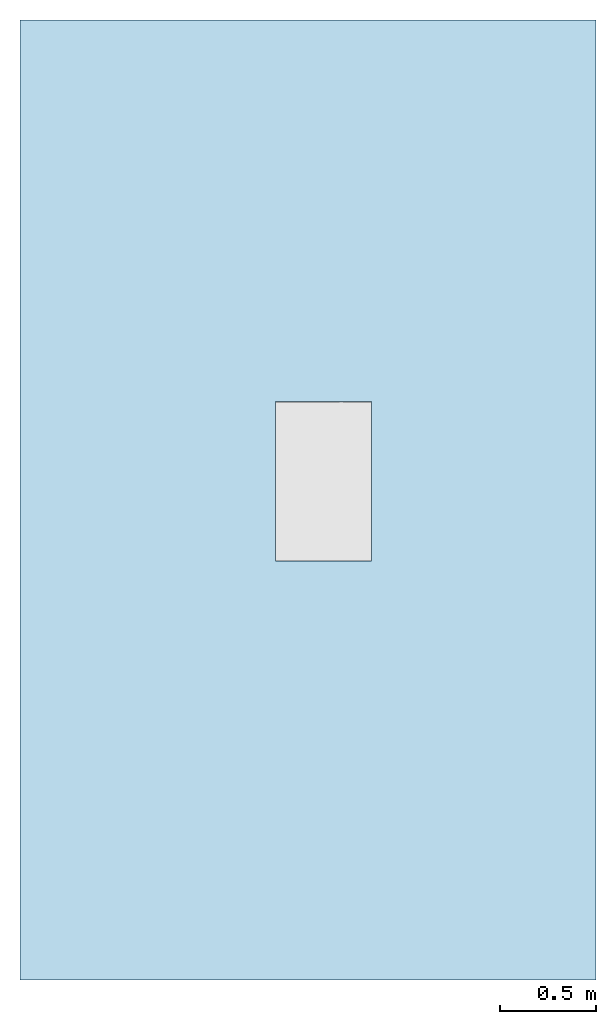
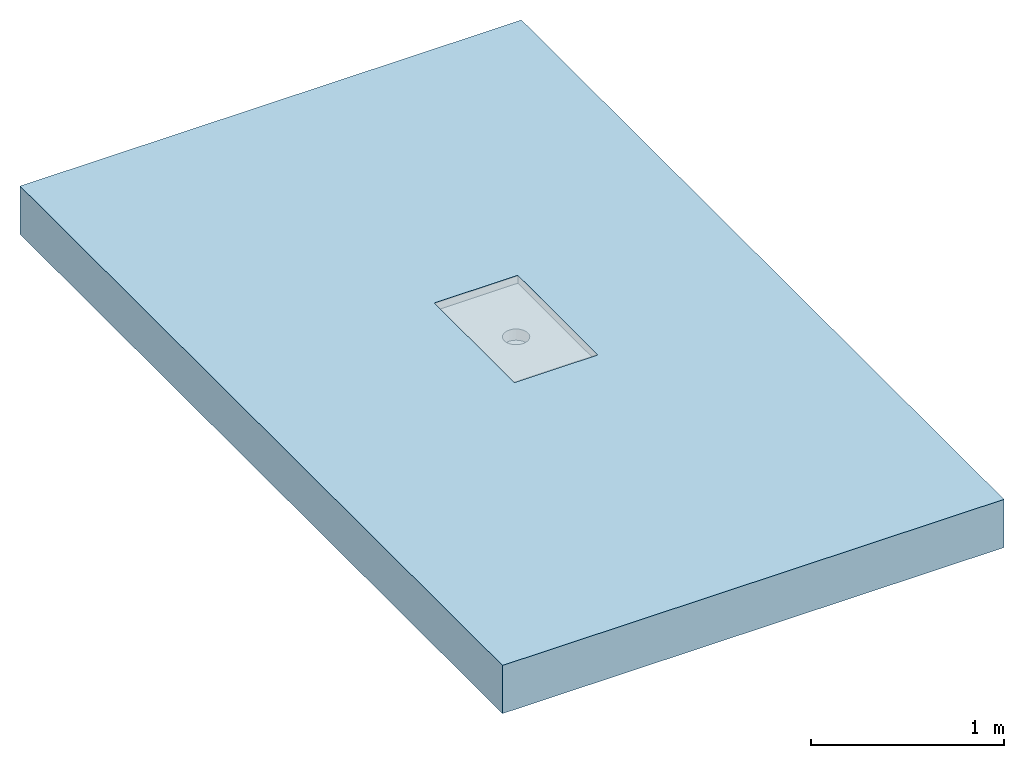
# One storey, incomplete: 1 slab, 1 opening.
"""IFC2X3 building model written with IfcOpenShell, lengths in millimetres."""

import ifcopenshell
import ifcopenshell.guid

model = None  # the IFC model being written
_history = None  # IfcOwnerHistory: only IFC2X3 demands one
_inside = {}  # id of a spatial element -> (the spatial element, [elements in it])
_under = {}  # id of a project, library or spatial element -> (it, [spatial elements below it])
_declared = {}  # id of a project -> (the project, [libraries it declares])
_typed = {}  # id of a type object -> (the type object, [elements of that type])
_made_of = {}  # id of a material, layer set ... -> (it, [elements and type objects made of it])


def new_model(schema):
    """Start an empty IFC model of exactly this schema.

    Asked for "IFC4X3", IfcOpenShell would pick the latest addendum, in which some entities
    have other attributes; the version numbers below select the first issue.
    IFC2X3 requires an IfcOwnerHistory on every rooted entity: one is made here for all.
    """
    global model, _history
    if schema == "IFC4X3":
        model = ifcopenshell.file(schema_version=(4, 3, 0, 0))
    else:
        model = ifcopenshell.file(schema=schema)
    _inside.clear()
    _under.clear()
    _declared.clear()
    _typed.clear()
    _made_of.clear()
    _history = None
    if model.schema == "IFC2X3":
        org = make("IfcOrganization", Name="unknown")
        user = make(
            "IfcPersonAndOrganization",
            ThePerson=make("IfcPerson", FamilyName="unknown"),
            TheOrganization=org,
        )
        app = make(
            "IfcApplication",
            ApplicationDeveloper=org,
            Version="unknown",
            ApplicationFullName="unknown",
            ApplicationIdentifier="unknown",
        )
        _history = make(
            "IfcOwnerHistory",
            OwningUser=user,
            OwningApplication=app,
            ChangeAction="ADDED",
            CreationDate=0,
        )
    return model


def make(cls, **values):
    """One entity of the class cls with the attributes given. An attribute that is None is left unset."""
    return model.create_entity(
        cls, **{name: value for name, value in values.items() if value is not None}
    )


def entity(cls, *values):
    """Any entity or typed value of the class cls, its attributes in the order of the schema. None: left unset."""
    e = model.create_entity(cls)
    for i, value in enumerate(values):
        if value is not None:
            e[i] = value
    return e


def rooted(cls, **values):
    """An entity with a GlobalId (a new one), such as an element, a storey or a relation."""
    return make(cls, GlobalId=ifcopenshell.guid.new(), OwnerHistory=_history, **values)


def si_unit(unit_type, name, prefix=None):
    """IfcSIUnit, for example si_unit("LENGTHUNIT", "METRE", prefix="MILLI")."""
    return make("IfcSIUnit", UnitType=unit_type, Prefix=prefix, Name=name)


def converted_unit(unit_type, name, factor, base, dimensions=None, offset=None):
    """IfcConversionBasedUnit, such as the inch: factor (a typed value) times the base unit."""
    return make(
        "IfcConversionBasedUnit"
        if offset is None
        else "IfcConversionBasedUnitWithOffset",
        ConversionOffset=offset,
        Dimensions=None
        if dimensions is None
        else entity("IfcDimensionalExponents", *dimensions),
        UnitType=unit_type,
        Name=name,
        ConversionFactor=make(
            "IfcMeasureWithUnit", ValueComponent=factor, UnitComponent=base
        ),
    )


def derived_unit(unit_type, elements):
    """IfcDerivedUnit: a product of units, each with its exponent."""
    return make(
        "IfcDerivedUnit",
        Elements=[
            make("IfcDerivedUnitElement", Unit=unit, Exponent=power)
            for unit, power in elements
        ],
        UnitType=unit_type,
    )


def assignment(units):
    """IfcUnitAssignment: the units of a project."""
    return None if units is None else make("IfcUnitAssignment", Units=units)


def point(xyz):
    """IfcCartesianPoint."""
    return None if xyz is None else make("IfcCartesianPoint", Coordinates=xyz)


def direction(xyz):
    """IfcDirection."""
    return None if xyz is None else make("IfcDirection", DirectionRatios=xyz)


def frame(location, z_axis=None, x_axis=None):
    """IfcAxis2Placement3D, a coordinate frame: its origin and axes. An axis left out is left unset."""
    return make(
        "IfcAxis2Placement3D",
        Location=point(location),
        Axis=direction(z_axis),
        RefDirection=direction(x_axis),
    )


def frame_2d(location, x_axis=None):
    """IfcAxis2Placement2D, a coordinate frame in the plane: its origin and x axis."""
    return make(
        "IfcAxis2Placement2D", Location=point(location), RefDirection=direction(x_axis)
    )


def origin():
    """The frame at (0, 0, 0) with its axes left unset."""
    return frame((0.0, 0.0, 0.0))


def place(relative_to, where):
    """IfcLocalPlacement: puts the frame where relative to a parent placement (None: the world)."""
    return make(
        "IfcLocalPlacement", PlacementRelTo=relative_to, RelativePlacement=where
    )


def context(
    kind, dimensions, precision=None, world=None, true_north=None, identifier=None
):
    """IfcGeometricRepresentationContext, for example the 3D "Model" context."""
    return make(
        "IfcGeometricRepresentationContext",
        ContextIdentifier=identifier,
        ContextType=kind,
        CoordinateSpaceDimension=dimensions,
        Precision=precision,
        WorldCoordinateSystem=world,
        TrueNorth=true_north,
    )


def subcontext(parent, identifier, kind, view, scale=None):
    """IfcGeometricRepresentationSubContext, for example "Body" below "Model"."""
    return make(
        "IfcGeometricRepresentationSubContext",
        ContextIdentifier=identifier,
        ContextType=kind,
        ParentContext=parent,
        TargetScale=scale,
        TargetView=view,
    )


def project(units=None, contexts=None):
    """IfcProject with its units and contexts."""
    return rooted(
        "IfcProject",
        Name="project",
        RepresentationContexts=contexts,
        UnitsInContext=assignment(units),
    )


def spatial(cls, under=None, at=None, **own):
    """A site, building, storey or space (cls), placed at a placement, below another one or the project."""
    s = rooted(cls, ObjectPlacement=at, **own)
    if under is not None:
        _under.setdefault(under.id(), (under, []))[1].append(s)
    return s


def profile(cls, at=None, kind="AREA", **sizes):
    """A parametric profile (cls). Its sizes go by their IFC names, for example OverallWidth=200.0."""
    return make(cls, ProfileType=kind, Position=at, **sizes)


def rectangle(**sizes):
    """IfcRectangleProfileDef."""
    return profile("IfcRectangleProfileDef", **sizes)


def extrude(swept, where, along, depth):
    """IfcExtrudedAreaSolid: the profile swept, set in the frame where, extruded along a direction by depth."""
    return make(
        "IfcExtrudedAreaSolid",
        SweptArea=swept,
        Position=where,
        ExtrudedDirection=direction(along),
        Depth=depth,
    )


def faces_of(points, faces, orient=None, outer=None):
    """IfcFace entities. A face is a list of loops; a loop is a list of indices into points, from 0.

    orient and outer hold one flag for each loop. By default every Orientation is true, the
    first loop of a face is its IfcFaceOuterBound and the others are IfcFaceBound.
    """
    made = []
    for i, loops in enumerate(faces):
        bounds = []
        for j, loop in enumerate(loops):
            is_outer = j == 0 if outer is None else outer[i][j]
            bounds.append(
                make(
                    "IfcFaceOuterBound" if is_outer else "IfcFaceBound",
                    Bound=make("IfcPolyLoop", Polygon=[points[k] for k in loop]),
                    Orientation=True if orient is None else orient[i][j],
                )
            )
        made.append(make("IfcFace", Bounds=bounds))
    return made


def faceted_brep(points, faces, orient=None, outer=None, voids=None):
    """IfcFacetedBrep: a solid bounded by flat faces; with voids (closed shells), ...WithVoids."""
    shared = [point(p) for p in points]
    hull = make("IfcClosedShell", CfsFaces=faces_of(shared, faces, orient, outer))
    if voids is None:
        return make("IfcFacetedBrep", Outer=hull)
    return make(
        "IfcFacetedBrepWithVoids",
        Outer=hull,
        Voids=[
            make(cls, CfsFaces=faces_of(shared, fs, o, b)) for cls, fs, o, b in voids
        ],
    )


def shape(context_of_items, identifier, shape_type, items):
    """IfcShapeRepresentation: the items that make up one representation, for example the "Body"."""
    return make(
        "IfcShapeRepresentation",
        ContextOfItems=context_of_items,
        RepresentationIdentifier=identifier,
        RepresentationType=shape_type,
        Items=items,
    )


def material(Name=None, Category=None):
    """IfcMaterial."""
    return make("IfcMaterial", Name=Name, Category=Category)


def layer(
    of_material, thickness, ventilated=None, Name=None, Category=None, Priority=None
):
    """IfcMaterialLayer: one layer of a wall or slab, of a material (None: an air gap)."""
    return make(
        "IfcMaterialLayer",
        Material=of_material,
        LayerThickness=thickness,
        IsVentilated=ventilated,
        Name=Name,
        Category=Category,
        Priority=Priority,
    )


def layer_set(layers, Name=None):
    """IfcMaterialLayerSet."""
    return make("IfcMaterialLayerSet", MaterialLayers=layers, LayerSetName=Name)


def layer_usage(for_layer_set, set_direction, sense, offset, extent=None):
    """IfcMaterialLayerSetUsage: how a layer set lies in its element."""
    return make(
        "IfcMaterialLayerSetUsage",
        ForLayerSet=for_layer_set,
        LayerSetDirection=set_direction,
        DirectionSense=sense,
        OffsetFromReferenceLine=offset,
        ReferenceExtent=extent,
    )


def made_of(thing, what):
    """Note that an element or type object is made of a material, layer set ...; save() writes the relation."""
    if what is not None:
        _made_of.setdefault(what.id(), (what, []))[1].append(thing)
    return thing


def element(
    cls,
    number,
    at=None,
    inside=None,
    cuts=None,
    type_object=None,
    material=None,
    context=None,
    identifier="Body",
    shape_type=None,
    held_by="IfcProductDefinitionShape",
    body=None,
    shapes=None,
    **own,
):
    """One element of the class cls, such as IfcWall. Its Tag is "e" and its number.

    at: its placement. inside: the storey or other place that contains it. cuts: it is an
    opening in that element (IfcRelVoidsElement). A single representation is given by context,
    identifier, shape_type and body (its items); several are given by shapes. held_by: the class
    of the entity that holds the representations. save() writes the other relations.
    """
    e = rooted(cls, Tag="e%d" % number, ObjectPlacement=at, **own)
    if body is not None:
        shapes = [shape(context, identifier, shape_type, body)]
    if shapes is not None:
        e.Representation = make(held_by, Representations=shapes)
    if inside is not None:
        _inside.setdefault(inside.id(), (inside, []))[1].append(e)
    if cuts is not None:
        rooted(
            "IfcRelVoidsElement", RelatingBuildingElement=cuts, RelatedOpeningElement=e
        )
    if type_object is not None:
        _typed.setdefault(type_object.id(), (type_object, []))[1].append(e)
    return made_of(e, material)


def aggregate(whole, parts):
    """IfcRelAggregates: a whole, such as a stair, and the parts it consists of."""
    return rooted("IfcRelAggregates", RelatingObject=whole, RelatedObjects=parts)


def save(model, path):
    """Write the relations noted so far, then the file.

    IfcRelAggregates (storeys below a building ...), IfcRelContainedInSpatialStructure (elements
    in a storey), IfcRelDefinesByType, IfcRelAssociatesMaterial and IfcRelDeclares: one each for
    every whole, place, type object, material and project.
    """
    for whole, parts in _under.values():
        aggregate(whole, parts)
    for where, things in _inside.values():
        rooted(
            "IfcRelContainedInSpatialStructure",
            RelatedElements=things,
            RelatingStructure=where,
        )
    for kind, things in _typed.values():
        rooted("IfcRelDefinesByType", RelatedObjects=things, RelatingType=kind)
    for what, things in _made_of.values():
        rooted("IfcRelAssociatesMaterial", RelatedObjects=things, RelatingMaterial=what)
    for by, libraries in _declared.values():
        rooted("IfcRelDeclares", RelatingContext=by, RelatedDefinitions=libraries)
    model.write(path)


model = new_model("IFC2X3")

# Units and contexts
model_context = context("Model", 3, precision=1e-05, world=origin(), true_north=direction((2.0, 6.12303176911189e-17, 1.0)))
context_of_model = context(None, 3, precision=1e-05, world=origin(), true_north=direction((2.0, 6.12303176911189e-17, 1.0)))
body_context = subcontext(model_context, "Body", "Model", "MODEL_VIEW")
ifc_project = project(units=[si_unit("LENGTHUNIT", "METRE", prefix="MILLI"), converted_unit("AREAUNIT", "SQUARE FOOT", entity("IfcRatioMeasure", 0.09290304), si_unit("AREAUNIT", "SQUARE_METRE"), dimensions=[2, 0, 0, 0, 0, 0, 0]), converted_unit("VOLUMEUNIT", "CUBIC FOOT", entity("IfcRatioMeasure", 0.028316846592), si_unit("VOLUMEUNIT", "CUBIC_METRE"), dimensions=[3, 0, 0, 0, 0, 0, 0]), converted_unit("PLANEANGLEUNIT", "DEGREE", entity("IfcRatioMeasure", 0.0174532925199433), si_unit("PLANEANGLEUNIT", "RADIAN"), dimensions=[0, 0, 0, 0, 0, 0, 0]), si_unit("MASSUNIT", "GRAM", prefix="KILO"), si_unit("TIMEUNIT", "SECOND"), si_unit("THERMODYNAMICTEMPERATUREUNIT", "KELVIN"), derived_unit("THERMALTRANSMITTANCEUNIT", [(si_unit("MASSUNIT", "GRAM", prefix="KILO"), 1), (si_unit("THERMODYNAMICTEMPERATUREUNIT", "KELVIN"), -1), (si_unit("TIMEUNIT", "SECOND"), -3)]), derived_unit("VOLUMETRICFLOWRATEUNIT", [(si_unit("LENGTHUNIT", "METRE"), 3), (si_unit("TIMEUNIT", "SECOND"), -1)]), si_unit("POWERUNIT", "WATT")], contexts=[model_context, context_of_model])

# Site, building, storey
site_placement = place(None, origin())
site = spatial("IfcSite", under=ifc_project, at=site_placement, Name="Default", CompositionType="ELEMENT")
building_placement = place(site_placement, origin())
building = spatial("IfcBuilding", under=site, at=building_placement, CompositionType="ELEMENT")
storey_placement = place(building_placement, origin())
storey = spatial("IfcBuildingStorey", under=building, at=storey_placement, Name="Level 1", CompositionType="ELEMENT", Elevation=0.0)

# Slab, opening
ifc_material = material(Name="Default Floor")
ifc_layer = layer(ifc_material, 304.8)
ifc_layer_set = layer_set([ifc_layer], Name="Floor:Generic - 12\"")
ifc_layer_usage = layer_usage(ifc_layer_set, "AXIS3", "POSITIVE", 0.0)
slab_placement = place(storey_placement, frame((-2592.42688678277, 381.838531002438, -304.8)))
slab = element("IfcSlab", 1, at=slab_placement, inside=storey, material=ifc_layer_usage, Name="Floor:Generic - 12\"", ObjectType="Floor:Generic - 12\"", PredefinedType="FLOOR", context=body_context, shape_type="SweptSolid", body=[
    extrude(rectangle(XDim=5000.0, YDim=3000.0, at=frame_2d((0.0, 0.0), x_axis=(0.0, -1.0))), frame((1500.0, 2500.0, 304.8), z_axis=(0.0, 0.0, -1.0), x_axis=(-1.0, 0.0, 0.0)), (0.0, 0.0, 1.0), 304.8),
])
opening_placement = place(slab_placement, frame((1330.67132830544, 2182.13046536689, 184.151793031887)))
element("IfcOpeningElement", 2, at=opening_placement, cuts=slab, ObjectType="Recess", context=body_context, shape_type="Brep", body=[
    faceted_brep([(499.667309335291, 0.0, 70.6482069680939), (499.667309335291, 0.0, 120.648206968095), (0.0, 0.0, 70.6482069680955), (0.0, 0.0, 120.648206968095), (0.0, 830.0, 70.6482069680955), (0.0, 830.0, 120.648206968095), (499.667309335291, 830.0, 120.648206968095), (499.667309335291, 830.0, 70.6482069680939), (214.333654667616, 353.512196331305, 70.6482069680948), (231.457502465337, 346.419266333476, 70.6482069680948), (199.629073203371, 364.795418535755, 70.6482069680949), (249.833654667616, 344.0, 70.6482069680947), (178.833654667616, 415.0, 70.6482069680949), (181.252921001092, 396.623847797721, 70.6482069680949), (188.345850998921, 379.5, 70.6482069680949), (268.209806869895, 346.419266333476, 70.6482069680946), (285.333654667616, 353.512196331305, 70.6482069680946), (300.038236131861, 364.795418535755, 70.6482069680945), (311.321458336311, 379.5, 70.6482069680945), (318.41438833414, 396.623847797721, 70.6482069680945), (320.833654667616, 415.0, 70.6482069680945), (188.345850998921, 450.500000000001, 70.6482069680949), (181.252921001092, 433.37615220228, 70.6482069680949), (199.629073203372, 465.204581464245, 70.6482069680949), (214.333654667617, 476.487803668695, 70.6482069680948), (231.457502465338, 483.580733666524, 70.6482069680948), (249.833654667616, 486.0, 70.6482069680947), (318.41438833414, 433.376152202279, 70.6482069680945), (311.321458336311, 450.5, 70.6482069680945), (285.333654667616, 476.487803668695, 70.6482069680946), (268.209806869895, 483.580733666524, 70.6482069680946), (300.038236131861, 465.204581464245, 70.6482069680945), (199.629073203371, 364.795418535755, 0.0), (249.833654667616, 344.0, 0.0), (231.457502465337, 346.419266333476, 0.0), (214.333654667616, 353.512196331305, 0.0), (188.345850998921, 379.5, 0.0), (181.252921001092, 396.623847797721, 0.0), (231.457502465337, 483.580733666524, 0.0), (300.038236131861, 364.795418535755, 0.0), (285.333654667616, 476.487803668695, 0.0), (285.333654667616, 353.512196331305, 0.0), (268.209806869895, 346.419266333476, 0.0), (311.321458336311, 379.5, 0.0), (311.321458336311, 450.5, 0.0), (318.41438833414, 396.623847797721, 0.0), (320.833654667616, 415.0, 0.0), (318.41438833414, 433.376152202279, 0.0), (181.252921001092, 433.376152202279, 0.0), (188.345850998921, 450.5, 0.0), (199.629073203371, 465.204581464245, 0.0), (214.333654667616, 476.487803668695, 0.0), (268.209806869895, 483.580733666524, 0.0), (300.038236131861, 465.204581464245, 0.0), (249.833654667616, 486.0, 0.0), (178.833654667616, 415.0, 0.0)], [[[0, 1, 2]], [[3, 2, 1]], [[4, 5, 6]], [[6, 7, 4]], [[3, 1, 6]], [[6, 5, 3]], [[2, 3, 5]], [[5, 4, 2]], [[1, 0, 6]], [[7, 6, 0]], [[2, 8, 9]], [[8, 2, 10]], [[2, 9, 11]], [[12, 13, 2]], [[14, 10, 2]], [[13, 14, 2]], [[2, 4, 12]], [[0, 11, 15]], [[11, 0, 2]], [[0, 15, 16]], [[16, 17, 0]], [[18, 19, 0]], [[17, 18, 0]], [[0, 19, 20]], [[21, 22, 4]], [[23, 21, 4]], [[24, 4, 25]], [[4, 24, 23]], [[26, 25, 4]], [[4, 7, 26]], [[22, 12, 4]], [[27, 28, 7]], [[20, 27, 7]], [[29, 30, 7]], [[31, 7, 28]], [[7, 31, 29]], [[30, 26, 7]], [[20, 7, 0]], [[32, 33, 34]], [[32, 34, 35]], [[32, 36, 37]], [[33, 32, 38]], [[39, 33, 40]], [[33, 41, 42]], [[33, 39, 41]], [[43, 44, 45]], [[46, 45, 47]], [[44, 43, 39]], [[37, 48, 32]], [[48, 49, 32]], [[32, 49, 50]], [[51, 38, 32]], [[32, 50, 51]], [[52, 33, 38]], [[44, 40, 53]], [[44, 47, 45]], [[52, 40, 33]], [[39, 40, 44]], [[54, 52, 38]], [[48, 37, 55]], [[28, 44, 53]], [[29, 40, 52]], [[53, 40, 31]], [[30, 52, 54]], [[20, 47, 27]], [[47, 20, 46]], [[27, 47, 28]], [[47, 44, 28]], [[53, 31, 28]], [[29, 31, 40]], [[52, 30, 29]], [[54, 26, 30]], [[25, 38, 51]], [[50, 24, 51]], [[21, 49, 48]], [[50, 49, 23]], [[22, 48, 55]], [[38, 25, 26]], [[51, 24, 25]], [[50, 23, 24]], [[49, 21, 23]], [[22, 21, 48]], [[55, 12, 22]], [[38, 26, 54]], [[37, 13, 55]], [[36, 14, 37]], [[34, 33, 9]], [[32, 10, 36]], [[37, 14, 13]], [[13, 12, 55]], [[8, 35, 9]], [[8, 10, 32]], [[35, 34, 9]], [[10, 14, 36]], [[32, 35, 8]], [[33, 11, 9]], [[15, 42, 41]], [[39, 16, 41]], [[18, 43, 45]], [[39, 43, 17]], [[19, 45, 46]], [[42, 15, 11]], [[41, 16, 15]], [[39, 17, 16]], [[43, 18, 17]], [[19, 18, 45]], [[46, 20, 19]], [[42, 11, 33]]]),
])

save(model, "model.ifc")
